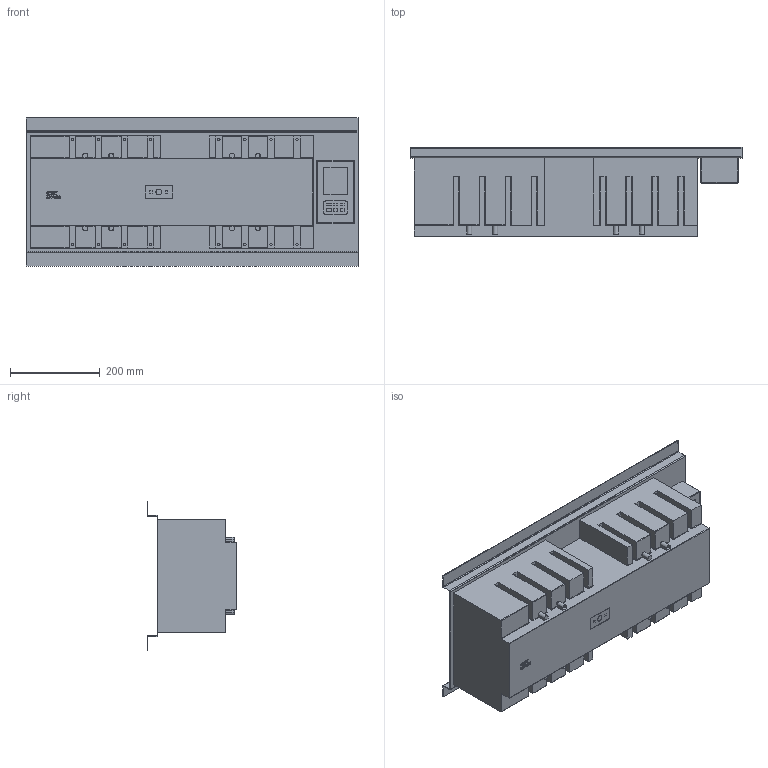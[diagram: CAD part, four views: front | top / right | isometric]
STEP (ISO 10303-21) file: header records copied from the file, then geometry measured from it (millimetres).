
FILE_DESCRIPTION(/* description */ ('','CAx-IF Rec.Pracs.---Representation and Presentation of Product Manufacturing Information (PMI)---3.8---2014-02-18'),/* implementation_level */ '2;1');
FILE_NAME(/* name */ 'C:\Users\ILYA\Desktop\NZ7\NZ7-630(4P)\NZ7-630(4P).stp',/* time_stamp */ '2017-08-16T22:21:00+03:00',/* author */ ('ILYA'),/* organization */ (''),/* preprocessor_version */ 'ST-DEVELOPER v16.1',/* originating_system */ 'Autodesk Inventor 2016',/* authorisation */ '');
FILE_SCHEMA (('AP242_MANAGED_MODEL_BASED_3D_ENGINEERING_MIM_LF { 1 0 10303 442 1 1 4 }'));
Length unit declared in the file: millimetre
Products named in the file (1): NZ7-630(4P)
Bounding box: 740 x 200 x 330 mm (x, y, z)
Volume: 24315891.6 mm3; surface area: 1091705 mm2
Topology: 1 solids, 1 shells, 537 faces, 1405 edges, 918 vertices
Faces by surface type: plane 317, cylinder 150, bspline 66, sphere 4
Full cylindrical faces by diameter (mm): 5 x16, 13 x1
Entity records: 16961 total; most frequent: CARTESIAN_POINT 3904, ORIENTED_EDGE 2776, DIRECTION 2464, EDGE_CURVE 1388, LINE 992, VECTOR 992, VERTEX_POINT 918, AXIS2_PLACEMENT_3D 736
